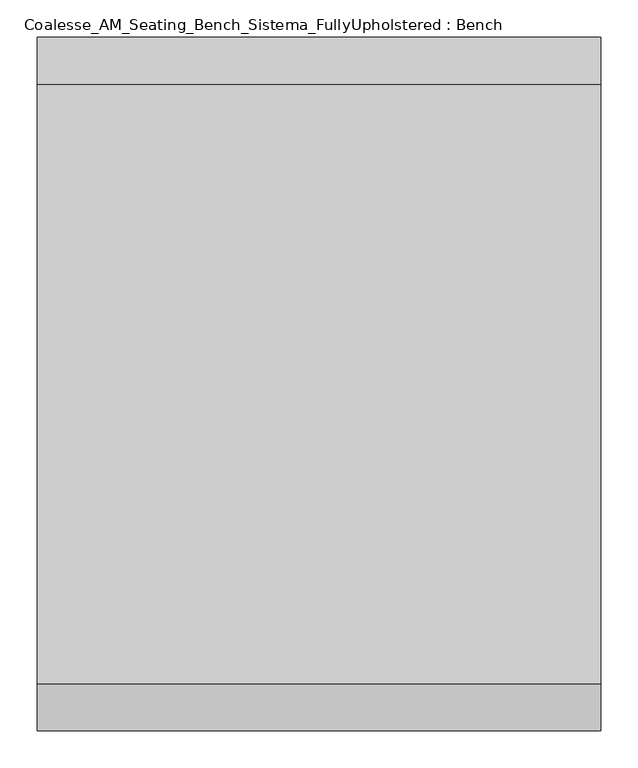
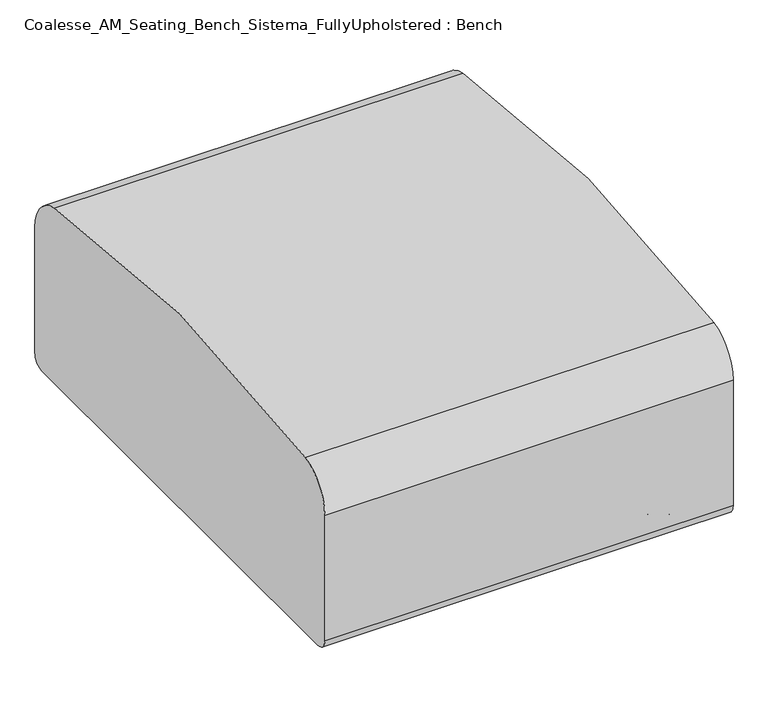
"""IFC4 building model written with IfcOpenShell, lengths in millimetres: furniture geometry, Coalesse_AM_Seating_Bench_Sistema_FullyUpholstered : Bench."""

from ifc_helpers import new_model, si_unit, point, frame, frame_2d, origin, place, context, project, spatial, polyline, circle_curve, ellipse_curve, trimmed, segment, composite_curve, outline, extrude, source, transform, mapped, element, save
from ifc_brep_helpers import plane_surface, cylinder_surface, revolved_surface, advanced_brep


def coalesse_am_seating_bench_sistema_fullyupholstered_bench_4b0fb1e1(model_context):
    return source(origin(), model_context, "Body", "SolidModel", [
        advanced_brep(
        [(-269.1276038, 379.5141881, 32.0111214), (-305.4012134, 379.5141881, 32.0111214), (-305.4012134, 379.5141881, 16.5557542), (-269.1276038, 379.5141881, 16.5557542), (-306.6948939, 379.5141881, 14.0167632), (-267.8339233, 379.5141881, 14.0167632), (-311.0668802, 379.5141881, 10.8824382), (-263.4619371, 379.5141881, 10.8824382), (-312.2530965, 379.5141881, 8.4680454), (-262.2757207, 379.5141881, 8.4680454), (-312.2530965, 379.5141881, 3.1081764), (-262.2757207, 379.5141881, 3.1081764), (-308.6567219, 379.5141881, 0.0), (-265.8720953, 379.5141881, 0.0), (-287.2644086, 379.5141881, 0.0), (-287.2644086, 379.5141881, 34.4679682), (-294.3791876, 379.5141881, 34.4679682), (-280.1496296, 379.5141881, 34.4679682), (-294.3791876, 379.5141881, 32.0111214), (-280.1496296, 379.5141881, 32.0111214)],
        [
            (0, 1, circle_curve(frame((-287.2644086, 379.5141881, 32.0111214), z_axis=(0.0, 0.0, -1.0), x_axis=(-1.0, 0.0, 0.0)), 18.1368048)),
            (1, 2),
            (2, 3, circle_curve(frame((-287.2644086, 379.5141881, 16.5557542), z_axis=(0.0, 0.0, 1.0), x_axis=(-1.0, 0.0, 0.0)), 18.1368048)),
            (3, 0),
            (1, 0, circle_curve(frame((-287.2644086, 379.5141881, 32.0111214), z_axis=(0.0, 0.0, -1.0), x_axis=(-1.0, 0.0, 0.0)), 18.1368048)),
            (3, 2, circle_curve(frame((-287.2644086, 379.5141881, 16.5557542), z_axis=(0.0, 0.0, 1.0), x_axis=(-1.0, 0.0, 0.0)), 18.1368048)),
            (2, 4),
            (4, 5, circle_curve(frame((-287.2644086, 379.5141881, 14.0167632), z_axis=(0.0, 0.0, 1.0), x_axis=(-1.0, 0.0, 0.0)), 19.4304853)),
            (5, 3),
            (5, 4, circle_curve(frame((-287.2644086, 379.5141881, 14.0167632), z_axis=(0.0, 0.0, 1.0), x_axis=(-1.0, 0.0, 0.0)), 19.4304853)),
            (4, 6, circle_curve(frame((-264.7129236, 379.5141881, -49.1591113), z_axis=(0.0, -1.0, 0.0), x_axis=(1.0, 0.0, 0.0)), 75.8529957)),
            (6, 7, circle_curve(frame((-287.2644086, 379.5141881, 10.8824382), z_axis=(0.0, 0.0, 1.0), x_axis=(-1.0, 0.0, 0.0)), 23.8024715)),
            (7, 5, circle_curve(frame((-309.8158936, 379.5141881, -49.1591113), z_axis=(0.0, -1.0, 0.0), x_axis=(-1.0, 0.0, 0.0)), 75.8529957)),
            (7, 6, circle_curve(frame((-287.2644086, 379.5141881, 10.8824382), z_axis=(0.0, 0.0, 1.0), x_axis=(-1.0, 0.0, 0.0)), 23.8024715)),
            (6, 8, circle_curve(frame((-309.2028933, 379.5141881, 8.4680454), z_axis=(0.0, -1.0, 0.0), x_axis=(1.0, 0.0, 0.0)), 3.0502032)),
            (8, 9, circle_curve(frame((-287.2644086, 379.5141881, 8.4680454), z_axis=(0.0, 0.0, 1.0), x_axis=(-1.0, 0.0, 0.0)), 24.9886879)),
            (9, 7, circle_curve(frame((-265.3259239, 379.5141881, 8.4680454), z_axis=(0.0, -1.0, 0.0), x_axis=(-1.0, 0.0, 0.0)), 3.0502032)),
            (9, 8, circle_curve(frame((-287.2644086, 379.5141881, 8.4680454), z_axis=(0.0, 0.0, 1.0), x_axis=(-1.0, 0.0, 0.0)), 24.9886879)),
            (8, 10),
            (10, 11, circle_curve(frame((-287.2644086, 379.5141881, 3.1081764), z_axis=(0.0, 0.0, 1.0), x_axis=(-1.0, 0.0, 0.0)), 24.9886879)),
            (11, 9),
            (11, 10, circle_curve(frame((-287.2644086, 379.5141881, 3.1081764), z_axis=(0.0, 0.0, 1.0), x_axis=(-1.0, 0.0, 0.0)), 24.9886879)),
            (10, 12, circle_curve(frame((-308.6567219, 379.5141881, 3.634715), z_axis=(0.0, -1.0, 0.0), x_axis=(1.0, 0.0, 0.0)), 3.634715)),
            (12, 13, circle_curve(frame((-287.2644086, 379.5141881, 0.0), z_axis=(0.0, 0.0, 1.0), x_axis=(-1.0, 0.0, 0.0)), 21.3923133)),
            (13, 11, circle_curve(frame((-265.8720953, 379.5141881, 3.634715), z_axis=(0.0, -1.0, 0.0), x_axis=(-1.0, 0.0, 0.0)), 3.634715)),
            (13, 12, circle_curve(frame((-287.2644086, 379.5141881, 0.0), z_axis=(0.0, 0.0, 1.0), x_axis=(-1.0, 0.0, 0.0)), 21.3923133)),
            (12, 14),
            (14, 13),
            (15, 16),
            (16, 17, circle_curve(frame((-287.2644086, 379.5141881, 34.4679682), z_axis=(0.0, 0.0, 1.0), x_axis=(-1.0, 0.0, 0.0)), 7.114779)),
            (17, 15),
            (17, 16, circle_curve(frame((-287.2644086, 379.5141881, 34.4679682), z_axis=(0.0, 0.0, 1.0), x_axis=(-1.0, 0.0, 0.0)), 7.114779)),
            (16, 18),
            (18, 19, circle_curve(frame((-287.2644086, 379.5141881, 32.0111214), z_axis=(0.0, 0.0, 1.0), x_axis=(-1.0, 0.0, 0.0)), 7.114779)),
            (19, 17),
            (19, 18, circle_curve(frame((-287.2644086, 379.5141881, 32.0111214), z_axis=(0.0, 0.0, 1.0), x_axis=(-1.0, 0.0, 0.0)), 7.114779)),
            (18, 1),
            (0, 19),
        ],
        [
            cylinder_surface(frame((-287.2644086, 379.5141881, 22.0491407), z_axis=(0.0, 0.0, 1.0), x_axis=(-1.0, 0.0, 0.0)), 18.1368048),
            revolved_surface(polyline([(-306.6948939, 379.5141881, 14.0167632), (-305.4012134, 379.5141881, 16.5557542)]), (-287.2644086, 379.5141881, 22.0491407), (0.0, 0.0, 1.0)),
            revolved_surface(trimmed(ellipse_curve(frame((-264.7129236, 379.5141881, -49.1591113), z_axis=(0.0, 1.0, 0.0), x_axis=(1.0, 0.0, 0.0)), 75.8529957, 75.8529957), [point((-311.0668802, 379.5141881, 10.8824382))], [point((-306.6948939, 379.5141881, 14.0167632))], True, "CARTESIAN"), (-287.2644086, 379.5141881, 22.0491407), (0.0, 0.0, 1.0)),
            revolved_surface(trimmed(ellipse_curve(frame((-309.2028933, 379.5141881, 8.4680454), z_axis=(0.0, 1.0, 0.0), x_axis=(1.0, 0.0, 0.0)), 3.0502032, 3.0502032), [point((-312.2530965, 379.5141881, 8.4680454))], [point((-311.0668802, 379.5141881, 10.8824382))], True, "CARTESIAN"), (-287.2644086, 379.5141881, 22.0491407), (0.0, 0.0, 1.0)),
            cylinder_surface(frame((-287.2644086, 379.5141881, 22.0491407), z_axis=(0.0, 0.0, 1.0), x_axis=(-1.0, 0.0, 0.0)), 24.9886879),
            revolved_surface(trimmed(ellipse_curve(frame((-308.6567219, 379.5141881, 3.634715), z_axis=(0.0, 1.0, 0.0), x_axis=(1.0, 0.0, 0.0)), 3.634715, 3.634715), [point((-308.6567219, 379.5141881, 0.0))], [point((-312.2530965, 379.5141881, 3.1081764))], True, "CARTESIAN"), (-287.2644086, 379.5141881, 22.0491407), (0.0, 0.0, 1.0)),
            plane_surface(frame((-287.2644086, 379.5141881, 0.0), z_axis=(0.0, 0.0, -1.0), x_axis=(-1.0, 0.0, 0.0))),
            plane_surface(frame((-287.2644086, 379.5141881, 34.4679682), z_axis=(0.0, 0.0, 1.0), x_axis=(-1.0, 0.0, 0.0))),
            cylinder_surface(frame((-287.2644086, 379.5141881, 22.0491407), z_axis=(0.0, 0.0, 1.0), x_axis=(-1.0, 0.0, 0.0)), 7.114779),
            plane_surface(frame((-287.2644086, 379.5141881, 32.0111214), z_axis=(0.0, 0.0, 1.0), x_axis=(-1.0, 0.0, 0.0))),
        ],
        [
            (0, [[1, 2, 3, 4]]),
            (0, [[5, -4, 6, -2]]),
            (1, [[-3, 7, 8, 9]]),
            (1, [[-6, -9, 10, -7]]),
            (2, [[-8, 11, 12, 13]]),
            (2, [[-10, -13, 14, -11]]),
            (3, [[-12, 15, 16, 17]]),
            (3, [[-14, -17, 18, -15]]),
            (4, [[-16, 19, 20, 21]]),
            (4, [[-18, -21, 22, -19]]),
            (5, [[-20, 23, 24, 25]]),
            (5, [[-22, -25, 26, -23]]),
            (6, [[-24, 27, 28]]),
            (6, [[-26, -28, -27]]),
            (7, [[29, 30, 31]]),
            (7, [[-31, 32, -29]]),
            (8, [[-30, 33, 34, 35]]),
            (8, [[-32, -35, 36, -33]]),
            (9, [[-34, 37, -1, 38]]),
            (9, [[-36, -38, -5, -37]]),
        ],
    ),
        advanced_brep(
        [(269.1276038, 379.5141881, 16.5557542), (305.4012134, 379.5141881, 16.5557542), (305.4012134, 379.5141881, 32.0111214), (269.1276038, 379.5141881, 32.0111214), (267.8339233, 379.5141881, 14.0167632), (306.6948939, 379.5141881, 14.0167632), (263.4619371, 379.5141881, 10.8824382), (311.0668802, 379.5141881, 10.8824382), (262.2757207, 379.5141881, 8.4680454), (312.2530965, 379.5141881, 8.4680454), (262.2757207, 379.5141881, 3.1081764), (312.2530965, 379.5141881, 3.1081764), (265.8720953, 379.5141881, 0.0), (308.6567219, 379.5141881, 0.0), (287.2644086, 379.5141881, 0.0), (280.1496296, 379.5141881, 34.4679682), (294.3791876, 379.5141881, 34.4679682), (287.2644086, 379.5141881, 34.4679682), (280.1496296, 379.5141881, 32.0111214), (294.3791876, 379.5141881, 32.0111214)],
        [
            (0, 1, circle_curve(frame((287.2644086, 379.5141881, 16.5557542), z_axis=(0.0, 0.0, 1.0), x_axis=(1.0, 0.0, 0.0)), 18.1368048)),
            (1, 2),
            (2, 3, circle_curve(frame((287.2644086, 379.5141881, 32.0111214), z_axis=(0.0, 0.0, -1.0), x_axis=(1.0, 0.0, 0.0)), 18.1368048)),
            (3, 0),
            (1, 0, circle_curve(frame((287.2644086, 379.5141881, 16.5557542), z_axis=(0.0, 0.0, 1.0), x_axis=(1.0, 0.0, 0.0)), 18.1368048)),
            (3, 2, circle_curve(frame((287.2644086, 379.5141881, 32.0111214), z_axis=(0.0, 0.0, -1.0), x_axis=(1.0, 0.0, 0.0)), 18.1368048)),
            (4, 5, circle_curve(frame((287.2644086, 379.5141881, 14.0167632), z_axis=(0.0, 0.0, 1.0), x_axis=(1.0, 0.0, 0.0)), 19.4304853)),
            (5, 1),
            (0, 4),
            (5, 4, circle_curve(frame((287.2644086, 379.5141881, 14.0167632), z_axis=(0.0, 0.0, 1.0), x_axis=(1.0, 0.0, 0.0)), 19.4304853)),
            (6, 7, circle_curve(frame((287.2644086, 379.5141881, 10.8824382), z_axis=(0.0, 0.0, 1.0), x_axis=(1.0, 0.0, 0.0)), 23.8024715)),
            (7, 5, circle_curve(frame((264.7129236, 379.5141881, -49.1591113), z_axis=(0.0, -1.0, 0.0), x_axis=(-1.0, 0.0, 0.0)), 75.8529957)),
            (4, 6, circle_curve(frame((309.8158936, 379.5141881, -49.1591113), z_axis=(0.0, -1.0, 0.0), x_axis=(1.0, 0.0, 0.0)), 75.8529957)),
            (7, 6, circle_curve(frame((287.2644086, 379.5141881, 10.8824382), z_axis=(0.0, 0.0, 1.0), x_axis=(1.0, 0.0, 0.0)), 23.8024715)),
            (8, 9, circle_curve(frame((287.2644086, 379.5141881, 8.4680454), z_axis=(0.0, 0.0, 1.0), x_axis=(1.0, 0.0, 0.0)), 24.9886879)),
            (9, 7, circle_curve(frame((309.2028933, 379.5141881, 8.4680454), z_axis=(0.0, -1.0, 0.0), x_axis=(-1.0, 0.0, 0.0)), 3.0502032)),
            (6, 8, circle_curve(frame((265.3259239, 379.5141881, 8.4680454), z_axis=(0.0, -1.0, 0.0), x_axis=(1.0, 0.0, 0.0)), 3.0502032)),
            (9, 8, circle_curve(frame((287.2644086, 379.5141881, 8.4680454), z_axis=(0.0, 0.0, 1.0), x_axis=(1.0, 0.0, 0.0)), 24.9886879)),
            (10, 11, circle_curve(frame((287.2644086, 379.5141881, 3.1081764), z_axis=(0.0, 0.0, 1.0), x_axis=(1.0, 0.0, 0.0)), 24.9886879)),
            (11, 9),
            (8, 10),
            (11, 10, circle_curve(frame((287.2644086, 379.5141881, 3.1081764), z_axis=(0.0, 0.0, 1.0), x_axis=(1.0, 0.0, 0.0)), 24.9886879)),
            (12, 13, circle_curve(frame((287.2644086, 379.5141881, 0.0), z_axis=(0.0, 0.0, 1.0), x_axis=(1.0, 0.0, 0.0)), 21.3923133)),
            (13, 11, circle_curve(frame((308.6567219, 379.5141881, 3.634715), z_axis=(0.0, -1.0, 0.0), x_axis=(-1.0, 0.0, 0.0)), 3.634715)),
            (10, 12, circle_curve(frame((265.8720953, 379.5141881, 3.634715), z_axis=(0.0, -1.0, 0.0), x_axis=(1.0, 0.0, 0.0)), 3.634715)),
            (13, 12, circle_curve(frame((287.2644086, 379.5141881, 0.0), z_axis=(0.0, 0.0, 1.0), x_axis=(1.0, 0.0, 0.0)), 21.3923133)),
            (14, 13),
            (12, 14),
            (15, 16, circle_curve(frame((287.2644086, 379.5141881, 34.4679682), z_axis=(0.0, 0.0, 1.0), x_axis=(1.0, 0.0, 0.0)), 7.114779)),
            (16, 17),
            (17, 15),
            (16, 15, circle_curve(frame((287.2644086, 379.5141881, 34.4679682), z_axis=(0.0, 0.0, 1.0), x_axis=(1.0, 0.0, 0.0)), 7.114779)),
            (18, 19, circle_curve(frame((287.2644086, 379.5141881, 32.0111214), z_axis=(0.0, 0.0, 1.0), x_axis=(1.0, 0.0, 0.0)), 7.114779)),
            (19, 16),
            (15, 18),
            (19, 18, circle_curve(frame((287.2644086, 379.5141881, 32.0111214), z_axis=(0.0, 0.0, 1.0), x_axis=(1.0, 0.0, 0.0)), 7.114779)),
            (2, 19),
            (18, 3),
        ],
        [
            cylinder_surface(frame((287.2644086, 379.5141881, 22.0491407), z_axis=(0.0, 0.0, -1.0), x_axis=(1.0, 0.0, 0.0)), 18.1368048),
            revolved_surface(polyline([(305.4012134, 379.5141881, 16.5557542), (306.6948939, 379.5141881, 14.0167632)]), (287.2644086, 379.5141881, 22.0491407), (0.0, 0.0, -1.0)),
            revolved_surface(trimmed(ellipse_curve(frame((264.7129236, 379.5141881, -49.1591113), z_axis=(0.0, 1.0, 0.0), x_axis=(-1.0, 0.0, 0.0)), 75.8529957, 75.8529957), [point((306.6948939, 379.5141881, 14.0167632))], [point((311.0668802, 379.5141881, 10.8824382))], True, "CARTESIAN"), (287.2644086, 379.5141881, 22.0491407), (0.0, 0.0, -1.0)),
            revolved_surface(trimmed(ellipse_curve(frame((309.2028933, 379.5141881, 8.4680454), z_axis=(0.0, 1.0, 0.0), x_axis=(-1.0, 0.0, 0.0)), 3.0502032, 3.0502032), [point((311.0668802, 379.5141881, 10.8824382))], [point((312.2530965, 379.5141881, 8.4680454))], True, "CARTESIAN"), (287.2644086, 379.5141881, 22.0491407), (0.0, 0.0, -1.0)),
            cylinder_surface(frame((287.2644086, 379.5141881, 22.0491407), z_axis=(0.0, 0.0, -1.0), x_axis=(1.0, 0.0, 0.0)), 24.9886879),
            revolved_surface(trimmed(ellipse_curve(frame((308.6567219, 379.5141881, 3.634715), z_axis=(0.0, 1.0, 0.0), x_axis=(-1.0, 0.0, 0.0)), 3.634715, 3.634715), [point((312.2530965, 379.5141881, 3.1081764))], [point((308.6567219, 379.5141881, 0.0))], True, "CARTESIAN"), (287.2644086, 379.5141881, 22.0491407), (0.0, 0.0, -1.0)),
            plane_surface(frame((287.2644086, 379.5141881, 0.0), z_axis=(0.0, 0.0, -1.0), x_axis=(1.0, 0.0, 0.0))),
            plane_surface(frame((287.2644086, 379.5141881, 34.4679682), z_axis=(0.0, 0.0, 1.0), x_axis=(1.0, 0.0, 0.0))),
            cylinder_surface(frame((287.2644086, 379.5141881, 22.0491407), z_axis=(0.0, 0.0, -1.0), x_axis=(1.0, 0.0, 0.0)), 7.114779),
            plane_surface(frame((287.2644086, 379.5141881, 32.0111214), z_axis=(0.0, 0.0, 1.0), x_axis=(1.0, 0.0, 0.0))),
        ],
        [
            (0, [[1, 2, 3, 4]]),
            (0, [[5, -4, 6, -2]]),
            (1, [[7, 8, -1, 9]]),
            (1, [[10, -9, -5, -8]]),
            (2, [[11, 12, -7, 13]]),
            (2, [[14, -13, -10, -12]]),
            (3, [[15, 16, -11, 17]]),
            (3, [[18, -17, -14, -16]]),
            (4, [[19, 20, -15, 21]]),
            (4, [[22, -21, -18, -20]]),
            (5, [[23, 24, -19, 25]]),
            (5, [[26, -25, -22, -24]]),
            (6, [[27, -23, 28]]),
            (6, [[-28, -26, -27]]),
            (7, [[29, 30, 31]]),
            (7, [[32, -31, -30]]),
            (8, [[33, 34, -29, 35]]),
            (8, [[36, -35, -32, -34]]),
            (9, [[-3, 37, -33, 38]]),
            (9, [[-6, -38, -36, -37]]),
        ],
    ),
        advanced_brep(
        [(269.1276038, -379.5141881, 32.0111214), (305.4012134, -379.5141881, 32.0111214), (305.4012134, -379.5141881, 16.5557542), (269.1276038, -379.5141881, 16.5557542), (306.6948939, -379.5141881, 14.0167632), (267.8339233, -379.5141881, 14.0167632), (311.0668802, -379.5141881, 10.8824382), (263.4619371, -379.5141881, 10.8824382), (312.2530965, -379.5141881, 8.4680454), (262.2757207, -379.5141881, 8.4680454), (312.2530965, -379.5141881, 3.1081764), (262.2757207, -379.5141881, 3.1081764), (308.6567219, -379.5141881, 0.0), (265.8720953, -379.5141881, 0.0), (287.2644086, -379.5141881, 0.0), (287.2644086, -379.5141881, 34.4679682), (294.3791876, -379.5141881, 34.4679682), (280.1496296, -379.5141881, 34.4679682), (294.3791876, -379.5141881, 32.0111214), (280.1496296, -379.5141881, 32.0111214)],
        [
            (0, 1, circle_curve(frame((287.2644086, -379.5141881, 32.0111214), z_axis=(0.0, 0.0, -1.0), x_axis=(1.0, 0.0, 0.0)), 18.1368048)),
            (1, 2),
            (2, 3, circle_curve(frame((287.2644086, -379.5141881, 16.5557542), z_axis=(0.0, 0.0, 1.0), x_axis=(1.0, 0.0, 0.0)), 18.1368048)),
            (3, 0),
            (1, 0, circle_curve(frame((287.2644086, -379.5141881, 32.0111214), z_axis=(0.0, 0.0, -1.0), x_axis=(1.0, 0.0, 0.0)), 18.1368048)),
            (3, 2, circle_curve(frame((287.2644086, -379.5141881, 16.5557542), z_axis=(0.0, 0.0, 1.0), x_axis=(1.0, 0.0, 0.0)), 18.1368048)),
            (2, 4),
            (4, 5, circle_curve(frame((287.2644086, -379.5141881, 14.0167632), z_axis=(0.0, 0.0, 1.0), x_axis=(1.0, 0.0, 0.0)), 19.4304853)),
            (5, 3),
            (5, 4, circle_curve(frame((287.2644086, -379.5141881, 14.0167632), z_axis=(0.0, 0.0, 1.0), x_axis=(1.0, 0.0, 0.0)), 19.4304853)),
            (4, 6, circle_curve(frame((264.7129236, -379.5141881, -49.1591113), z_axis=(0.0, 1.0, 0.0), x_axis=(-1.0, 0.0, 0.0)), 75.8529957)),
            (6, 7, circle_curve(frame((287.2644086, -379.5141881, 10.8824382), z_axis=(0.0, 0.0, 1.0), x_axis=(1.0, 0.0, 0.0)), 23.8024715)),
            (7, 5, circle_curve(frame((309.8158936, -379.5141881, -49.1591113), z_axis=(0.0, 1.0, 0.0), x_axis=(1.0, 0.0, 0.0)), 75.8529957)),
            (7, 6, circle_curve(frame((287.2644086, -379.5141881, 10.8824382), z_axis=(0.0, 0.0, 1.0), x_axis=(1.0, 0.0, 0.0)), 23.8024715)),
            (6, 8, circle_curve(frame((309.2028933, -379.5141881, 8.4680454), z_axis=(0.0, 1.0, 0.0), x_axis=(-1.0, 0.0, 0.0)), 3.0502032)),
            (8, 9, circle_curve(frame((287.2644086, -379.5141881, 8.4680454), z_axis=(0.0, 0.0, 1.0), x_axis=(1.0, 0.0, 0.0)), 24.9886879)),
            (9, 7, circle_curve(frame((265.3259239, -379.5141881, 8.4680454), z_axis=(0.0, 1.0, 0.0), x_axis=(1.0, 0.0, 0.0)), 3.0502032)),
            (9, 8, circle_curve(frame((287.2644086, -379.5141881, 8.4680454), z_axis=(0.0, 0.0, 1.0), x_axis=(1.0, 0.0, 0.0)), 24.9886879)),
            (8, 10),
            (10, 11, circle_curve(frame((287.2644086, -379.5141881, 3.1081764), z_axis=(0.0, 0.0, 1.0), x_axis=(1.0, 0.0, 0.0)), 24.9886879)),
            (11, 9),
            (11, 10, circle_curve(frame((287.2644086, -379.5141881, 3.1081764), z_axis=(0.0, 0.0, 1.0), x_axis=(1.0, 0.0, 0.0)), 24.9886879)),
            (10, 12, circle_curve(frame((308.6567219, -379.5141881, 3.634715), z_axis=(0.0, 1.0, 0.0), x_axis=(-1.0, 0.0, 0.0)), 3.634715)),
            (12, 13, circle_curve(frame((287.2644086, -379.5141881, 0.0), z_axis=(0.0, 0.0, 1.0), x_axis=(1.0, 0.0, 0.0)), 21.3923133)),
            (13, 11, circle_curve(frame((265.8720953, -379.5141881, 3.634715), z_axis=(0.0, 1.0, 0.0), x_axis=(1.0, 0.0, 0.0)), 3.634715)),
            (13, 12, circle_curve(frame((287.2644086, -379.5141881, 0.0), z_axis=(0.0, 0.0, 1.0), x_axis=(1.0, 0.0, 0.0)), 21.3923133)),
            (12, 14),
            (14, 13),
            (15, 16),
            (16, 17, circle_curve(frame((287.2644086, -379.5141881, 34.4679682), z_axis=(0.0, 0.0, 1.0), x_axis=(1.0, 0.0, 0.0)), 7.114779)),
            (17, 15),
            (17, 16, circle_curve(frame((287.2644086, -379.5141881, 34.4679682), z_axis=(0.0, 0.0, 1.0), x_axis=(1.0, 0.0, 0.0)), 7.114779)),
            (16, 18),
            (18, 19, circle_curve(frame((287.2644086, -379.5141881, 32.0111214), z_axis=(0.0, 0.0, 1.0), x_axis=(1.0, 0.0, 0.0)), 7.114779)),
            (19, 17),
            (19, 18, circle_curve(frame((287.2644086, -379.5141881, 32.0111214), z_axis=(0.0, 0.0, 1.0), x_axis=(1.0, 0.0, 0.0)), 7.114779)),
            (18, 1),
            (0, 19),
        ],
        [
            cylinder_surface(frame((287.2644086, -379.5141881, 22.0491407), z_axis=(0.0, 0.0, 1.0), x_axis=(1.0, 0.0, 0.0)), 18.1368048),
            revolved_surface(polyline([(306.6948939, -379.5141881, 14.0167632), (305.4012134, -379.5141881, 16.5557542)]), (287.2644086, -379.5141881, 22.0491407), (0.0, 0.0, 1.0)),
            revolved_surface(trimmed(ellipse_curve(frame((264.7129236, -379.5141881, -49.1591113), z_axis=(0.0, -1.0, 0.0), x_axis=(-1.0, 0.0, 0.0)), 75.8529957, 75.8529957), [point((311.0668802, -379.5141881, 10.8824382))], [point((306.6948939, -379.5141881, 14.0167632))], True, "CARTESIAN"), (287.2644086, -379.5141881, 22.0491407), (0.0, 0.0, 1.0)),
            revolved_surface(trimmed(ellipse_curve(frame((309.2028933, -379.5141881, 8.4680454), z_axis=(0.0, -1.0, 0.0), x_axis=(-1.0, 0.0, 0.0)), 3.0502032, 3.0502032), [point((312.2530965, -379.5141881, 8.4680454))], [point((311.0668802, -379.5141881, 10.8824382))], True, "CARTESIAN"), (287.2644086, -379.5141881, 22.0491407), (0.0, 0.0, 1.0)),
            cylinder_surface(frame((287.2644086, -379.5141881, 22.0491407), z_axis=(0.0, 0.0, 1.0), x_axis=(1.0, 0.0, 0.0)), 24.9886879),
            revolved_surface(trimmed(ellipse_curve(frame((308.6567219, -379.5141881, 3.634715), z_axis=(0.0, -1.0, 0.0), x_axis=(-1.0, 0.0, 0.0)), 3.634715, 3.634715), [point((308.6567219, -379.5141881, 0.0))], [point((312.2530965, -379.5141881, 3.1081764))], True, "CARTESIAN"), (287.2644086, -379.5141881, 22.0491407), (0.0, 0.0, 1.0)),
            plane_surface(frame((287.2644086, -379.5141881, 0.0), z_axis=(0.0, 0.0, -1.0), x_axis=(1.0, 0.0, 0.0))),
            plane_surface(frame((287.2644086, -379.5141881, 34.4679682), z_axis=(0.0, 0.0, 1.0), x_axis=(1.0, 0.0, 0.0))),
            cylinder_surface(frame((287.2644086, -379.5141881, 22.0491407), z_axis=(0.0, 0.0, 1.0), x_axis=(1.0, 0.0, 0.0)), 7.114779),
            plane_surface(frame((287.2644086, -379.5141881, 32.0111214), z_axis=(0.0, 0.0, 1.0), x_axis=(1.0, 0.0, 0.0))),
        ],
        [
            (0, [[1, 2, 3, 4]]),
            (0, [[5, -4, 6, -2]]),
            (1, [[-3, 7, 8, 9]]),
            (1, [[-6, -9, 10, -7]]),
            (2, [[-8, 11, 12, 13]]),
            (2, [[-10, -13, 14, -11]]),
            (3, [[-12, 15, 16, 17]]),
            (3, [[-14, -17, 18, -15]]),
            (4, [[-16, 19, 20, 21]]),
            (4, [[-18, -21, 22, -19]]),
            (5, [[-20, 23, 24, 25]]),
            (5, [[-22, -25, 26, -23]]),
            (6, [[-24, 27, 28]]),
            (6, [[-26, -28, -27]]),
            (7, [[29, 30, 31]]),
            (7, [[-31, 32, -29]]),
            (8, [[-30, 33, 34, 35]]),
            (8, [[-32, -35, 36, -33]]),
            (9, [[-34, 37, -1, 38]]),
            (9, [[-36, -38, -5, -37]]),
        ],
    ),
        advanced_brep(
        [(-269.1276038, -379.5141881, 16.5557542), (-305.4012134, -379.5141881, 16.5557542), (-305.4012134, -379.5141881, 32.0111214), (-269.1276038, -379.5141881, 32.0111214), (-267.8339233, -379.5141881, 14.0167632), (-306.6948939, -379.5141881, 14.0167632), (-263.4619371, -379.5141881, 10.8824382), (-311.0668802, -379.5141881, 10.8824382), (-262.2757207, -379.5141881, 8.4680454), (-312.2530965, -379.5141881, 8.4680454), (-262.2757207, -379.5141881, 3.1081764), (-312.2530965, -379.5141881, 3.1081764), (-265.8720953, -379.5141881, 0.0), (-308.6567219, -379.5141881, 0.0), (-287.2644086, -379.5141881, 0.0), (-280.1496296, -379.5141881, 34.4679682), (-294.3791876, -379.5141881, 34.4679682), (-287.2644086, -379.5141881, 34.4679682), (-280.1496296, -379.5141881, 32.0111214), (-294.3791876, -379.5141881, 32.0111214)],
        [
            (0, 1, circle_curve(frame((-287.2644086, -379.5141881, 16.5557542), z_axis=(0.0, 0.0, 1.0), x_axis=(-1.0, 0.0, 0.0)), 18.1368048)),
            (1, 2),
            (2, 3, circle_curve(frame((-287.2644086, -379.5141881, 32.0111214), z_axis=(0.0, 0.0, -1.0), x_axis=(-1.0, 0.0, 0.0)), 18.1368048)),
            (3, 0),
            (1, 0, circle_curve(frame((-287.2644086, -379.5141881, 16.5557542), z_axis=(0.0, 0.0, 1.0), x_axis=(-1.0, 0.0, 0.0)), 18.1368048)),
            (3, 2, circle_curve(frame((-287.2644086, -379.5141881, 32.0111214), z_axis=(0.0, 0.0, -1.0), x_axis=(-1.0, 0.0, 0.0)), 18.1368048)),
            (4, 5, circle_curve(frame((-287.2644086, -379.5141881, 14.0167632), z_axis=(0.0, 0.0, 1.0), x_axis=(-1.0, 0.0, 0.0)), 19.4304853)),
            (5, 1),
            (0, 4),
            (5, 4, circle_curve(frame((-287.2644086, -379.5141881, 14.0167632), z_axis=(0.0, 0.0, 1.0), x_axis=(-1.0, 0.0, 0.0)), 19.4304853)),
            (6, 7, circle_curve(frame((-287.2644086, -379.5141881, 10.8824382), z_axis=(0.0, 0.0, 1.0), x_axis=(-1.0, 0.0, 0.0)), 23.8024715)),
            (7, 5, circle_curve(frame((-264.7129236, -379.5141881, -49.1591113), z_axis=(0.0, 1.0, 0.0), x_axis=(1.0, 0.0, 0.0)), 75.8529957)),
            (4, 6, circle_curve(frame((-309.8158936, -379.5141881, -49.1591113), z_axis=(0.0, 1.0, 0.0), x_axis=(-1.0, 0.0, 0.0)), 75.8529957)),
            (7, 6, circle_curve(frame((-287.2644086, -379.5141881, 10.8824382), z_axis=(0.0, 0.0, 1.0), x_axis=(-1.0, 0.0, 0.0)), 23.8024715)),
            (8, 9, circle_curve(frame((-287.2644086, -379.5141881, 8.4680454), z_axis=(0.0, 0.0, 1.0), x_axis=(-1.0, 0.0, 0.0)), 24.9886879)),
            (9, 7, circle_curve(frame((-309.2028933, -379.5141881, 8.4680454), z_axis=(0.0, 1.0, 0.0), x_axis=(1.0, 0.0, 0.0)), 3.0502032)),
            (6, 8, circle_curve(frame((-265.3259239, -379.5141881, 8.4680454), z_axis=(0.0, 1.0, 0.0), x_axis=(-1.0, 0.0, 0.0)), 3.0502032)),
            (9, 8, circle_curve(frame((-287.2644086, -379.5141881, 8.4680454), z_axis=(0.0, 0.0, 1.0), x_axis=(-1.0, 0.0, 0.0)), 24.9886879)),
            (10, 11, circle_curve(frame((-287.2644086, -379.5141881, 3.1081764), z_axis=(0.0, 0.0, 1.0), x_axis=(-1.0, 0.0, 0.0)), 24.9886879)),
            (11, 9),
            (8, 10),
            (11, 10, circle_curve(frame((-287.2644086, -379.5141881, 3.1081764), z_axis=(0.0, 0.0, 1.0), x_axis=(-1.0, 0.0, 0.0)), 24.9886879)),
            (12, 13, circle_curve(frame((-287.2644086, -379.5141881, 0.0), z_axis=(0.0, 0.0, 1.0), x_axis=(-1.0, 0.0, 0.0)), 21.3923133)),
            (13, 11, circle_curve(frame((-308.6567219, -379.5141881, 3.634715), z_axis=(0.0, 1.0, 0.0), x_axis=(1.0, 0.0, 0.0)), 3.634715)),
            (10, 12, circle_curve(frame((-265.8720953, -379.5141881, 3.634715), z_axis=(0.0, 1.0, 0.0), x_axis=(-1.0, 0.0, 0.0)), 3.634715)),
            (13, 12, circle_curve(frame((-287.2644086, -379.5141881, 0.0), z_axis=(0.0, 0.0, 1.0), x_axis=(-1.0, 0.0, 0.0)), 21.3923133)),
            (14, 13),
            (12, 14),
            (15, 16, circle_curve(frame((-287.2644086, -379.5141881, 34.4679682), z_axis=(0.0, 0.0, 1.0), x_axis=(-1.0, 0.0, 0.0)), 7.114779)),
            (16, 17),
            (17, 15),
            (16, 15, circle_curve(frame((-287.2644086, -379.5141881, 34.4679682), z_axis=(0.0, 0.0, 1.0), x_axis=(-1.0, 0.0, 0.0)), 7.114779)),
            (18, 19, circle_curve(frame((-287.2644086, -379.5141881, 32.0111214), z_axis=(0.0, 0.0, 1.0), x_axis=(-1.0, 0.0, 0.0)), 7.114779)),
            (19, 16),
            (15, 18),
            (19, 18, circle_curve(frame((-287.2644086, -379.5141881, 32.0111214), z_axis=(0.0, 0.0, 1.0), x_axis=(-1.0, 0.0, 0.0)), 7.114779)),
            (2, 19),
            (18, 3),
        ],
        [
            cylinder_surface(frame((-287.2644086, -379.5141881, 22.0491407), z_axis=(0.0, 0.0, -1.0), x_axis=(-1.0, 0.0, 0.0)), 18.1368048),
            revolved_surface(polyline([(-305.4012134, -379.5141881, 16.5557542), (-306.6948939, -379.5141881, 14.0167632)]), (-287.2644086, -379.5141881, 22.0491407), (0.0, 0.0, -1.0)),
            revolved_surface(trimmed(ellipse_curve(frame((-264.7129236, -379.5141881, -49.1591113), z_axis=(0.0, -1.0, 0.0), x_axis=(1.0, 0.0, 0.0)), 75.8529957, 75.8529957), [point((-306.6948939, -379.5141881, 14.0167632))], [point((-311.0668802, -379.5141881, 10.8824382))], True, "CARTESIAN"), (-287.2644086, -379.5141881, 22.0491407), (0.0, 0.0, -1.0)),
            revolved_surface(trimmed(ellipse_curve(frame((-309.2028933, -379.5141881, 8.4680454), z_axis=(0.0, -1.0, 0.0), x_axis=(1.0, 0.0, 0.0)), 3.0502032, 3.0502032), [point((-311.0668802, -379.5141881, 10.8824382))], [point((-312.2530965, -379.5141881, 8.4680454))], True, "CARTESIAN"), (-287.2644086, -379.5141881, 22.0491407), (0.0, 0.0, -1.0)),
            cylinder_surface(frame((-287.2644086, -379.5141881, 22.0491407), z_axis=(0.0, 0.0, -1.0), x_axis=(-1.0, 0.0, 0.0)), 24.9886879),
            revolved_surface(trimmed(ellipse_curve(frame((-308.6567219, -379.5141881, 3.634715), z_axis=(0.0, -1.0, 0.0), x_axis=(1.0, 0.0, 0.0)), 3.634715, 3.634715), [point((-312.2530965, -379.5141881, 3.1081764))], [point((-308.6567219, -379.5141881, 0.0))], True, "CARTESIAN"), (-287.2644086, -379.5141881, 22.0491407), (0.0, 0.0, -1.0)),
            plane_surface(frame((-287.2644086, -379.5141881, 0.0), z_axis=(0.0, 0.0, -1.0), x_axis=(-1.0, 0.0, 0.0))),
            plane_surface(frame((-287.2644086, -379.5141881, 34.4679682), z_axis=(0.0, 0.0, 1.0), x_axis=(-1.0, 0.0, 0.0))),
            cylinder_surface(frame((-287.2644086, -379.5141881, 22.0491407), z_axis=(0.0, 0.0, -1.0), x_axis=(-1.0, 0.0, 0.0)), 7.114779),
            plane_surface(frame((-287.2644086, -379.5141881, 32.0111214), z_axis=(0.0, 0.0, 1.0), x_axis=(-1.0, 0.0, 0.0))),
        ],
        [
            (0, [[1, 2, 3, 4]]),
            (0, [[5, -4, 6, -2]]),
            (1, [[7, 8, -1, 9]]),
            (1, [[10, -9, -5, -8]]),
            (2, [[11, 12, -7, 13]]),
            (2, [[14, -13, -10, -12]]),
            (3, [[15, 16, -11, 17]]),
            (3, [[18, -17, -14, -16]]),
            (4, [[19, 20, -15, 21]]),
            (4, [[22, -21, -18, -20]]),
            (5, [[23, 24, -19, 25]]),
            (5, [[26, -25, -22, -24]]),
            (6, [[27, -23, 28]]),
            (6, [[-28, -26, -27]]),
            (7, [[29, 30, 31]]),
            (7, [[32, -31, -30]]),
            (8, [[33, 34, -29, 35]]),
            (8, [[36, -35, -32, -34]]),
            (9, [[-3, 37, -33, 38]]),
            (9, [[-6, -38, -36, -37]]),
        ],
    ),
        extrude(outline(composite_curve([segment(trimmed(circle_curve(frame_2d((-438.9184381, 56.7777814)), 22.352), [point((-438.9184381, 34.4257814))], [point((-461.2704381, 56.7777814))], False, "CARTESIAN"), True, "CONTINUOUS"), segment(polyline([(-461.2704381, 56.7777814), (-461.2704381, 301.4421993)]), True, "CONTINUOUS"), segment(trimmed(circle_curve(frame_2d((-385.0704381, 301.4421993)), 76.2), [point((-461.2704381, 301.4421993))], [point((-398.9277015, 376.3716077))], False, "CARTESIAN"), True, "CONTINUOUS"), segment(trimmed(circle_curve(frame_2d((2.2103559, -1792.6740646)), 2205.8265729), [point((-398.9277015, 376.3716077))], [point((402.2636195, 376.5719464))], False, "CARTESIAN"), True, "CONTINUOUS"), segment(trimmed(circle_curve(frame_2d((388.4438301, 301.6356173)), 76.2), [point((402.2636195, 376.5719464))], [point((464.6438301, 301.6356173))], False, "CARTESIAN"), True, "CONTINUOUS"), segment(polyline([(464.6438301, 301.6356173), (464.6438301, 56.7429806)]), True, "CONTINUOUS"), segment(trimmed(circle_curve(frame_2d((442.3266309, 56.7429806)), 22.3171991), [point((464.6438301, 56.7429806))], [point((442.3266309, 34.4257814))], False, "CARTESIAN"), True, "CONTINUOUS"), segment(polyline([(442.3266309, 34.4257814), (-438.9184381, 34.4257814)]), True, "CONTINUOUS")], self_intersect=False)), frame((-374.8034773, 0.0, 0.0), z_axis=(1.0, 0.0, 0.0), x_axis=(0.0, 1.0, 0.0)), (0.0, 0.0, 1.0), 752.2863161),
    ])


if __name__ == "__main__":
    model = new_model("IFC4")
    model_context = context("Model", 3, world=origin())
    ifc_project = project(units=[si_unit("LENGTHUNIT", "METRE", prefix="MILLI")], contexts=[model_context])
    site = spatial("IfcSite", under=ifc_project)
    building = spatial("IfcBuilding", under=site)
    placement = place(None, origin())
    coalesse_am_seating_bench_sistema_fullyupholstered_bench_shape = coalesse_am_seating_bench_sistema_fullyupholstered_bench_4b0fb1e1(model_context)
    element("IfcFurniture", 1, ObjectType="Coalesse_AM_Seating_Bench_Sistema_FullyUpholstered : Bench", at=placement, inside=building, context=model_context, shape_type="MappedRepresentation", body=[
        mapped(coalesse_am_seating_bench_sistema_fullyupholstered_bench_shape, transform((0.0, 0.0, 0.0), x_axis=(1.0, 0.0, 0.0), y_axis=(0.0, 1.0, 0.0), z_axis=(0.0, 0.0, 1.0))),
    ])
    save(model, "model.ifc")
